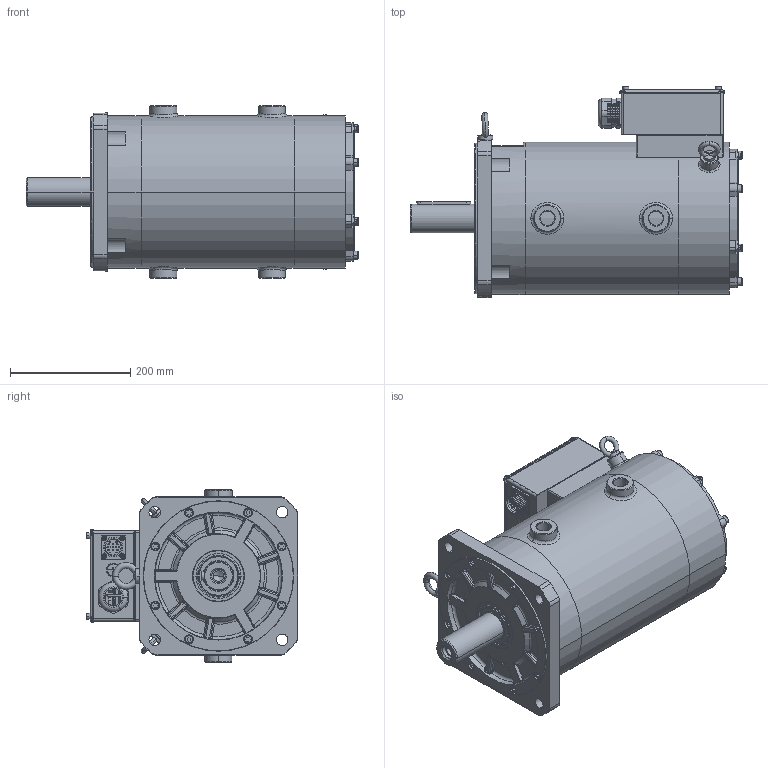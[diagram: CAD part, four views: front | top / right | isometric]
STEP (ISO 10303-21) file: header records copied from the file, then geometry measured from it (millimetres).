
FILE_DESCRIPTION((''),'2;1');
FILE_NAME('MOTOR-200____SW0001','2026-02-12T16:25:35',('01002423'),(''),'CREO PARAMETRIC BY PTC INC, 2019080','CREO PARAMETRIC BY PTC INC, 2019080','');
FILE_SCHEMA(('CONFIG_CONTROL_DESIGN'));
Length unit declared in the file: millimetre
Products named in the file (1): MOTOR-200____SW0001
Bounding box: 552 x 350.99 x 287 mm (x, y, z)
Surface area: 1829267.4 mm2 (no closed solid volume)
Topology: 0 solids, 108 shells, 2101 faces, 7005 edges, 4984 vertices
Faces by surface type: plane 804, cylinder 608, bspline 344, cone 168, torus 153, sphere 24
Entity records: 104590 total; most frequent: CARTESIAN_POINT 45571, DIRECTION 11882, ORIENTED_EDGE 11576, EDGE_CURVE 6969, VERTEX_POINT 4984, AXIS2_PLACEMENT_3D 4074, VECTOR 3734, LINE 3734
